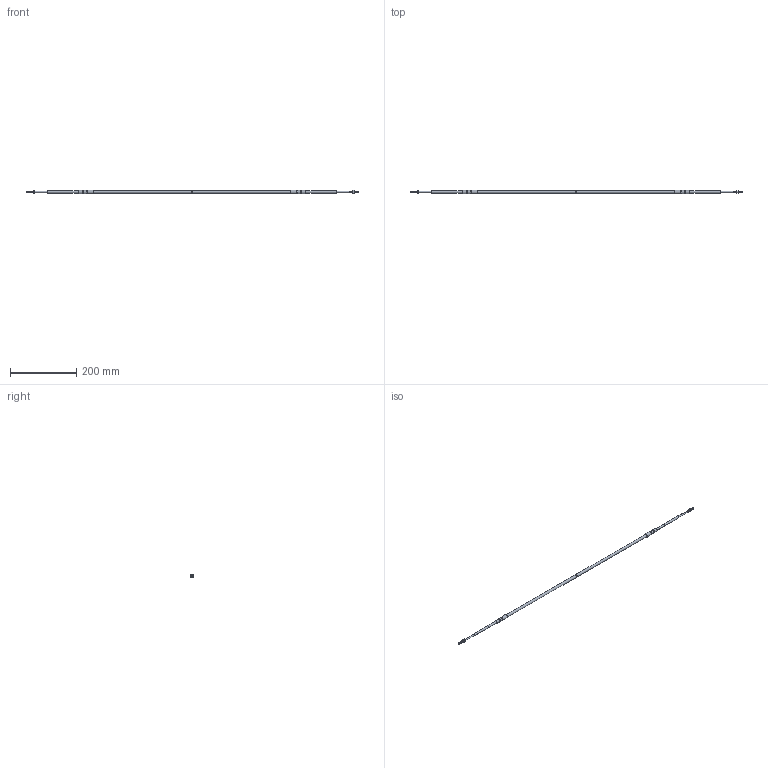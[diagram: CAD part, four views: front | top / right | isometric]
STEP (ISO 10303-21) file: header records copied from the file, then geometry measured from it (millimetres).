
FILE_DESCRIPTION(/* description */ (''),/* implementation_level */ '2;1');
FILE_NAME(/* name */ 'complessivo mach0.stp',/* time_stamp */ '2021-02-04T15:30:16+01:00',/* author */ (''),/* organization */ (''),/* preprocessor_version */ 'ST-DEVELOPER v16.7',/* originating_system */ 'SIEMENS PLM Software NX 1863',/* authorisation */ '');
FILE_SCHEMA (('AP203_CONFIGURATION_CONTROLLED_3D_DESIGN_OF_MECHANICAL_PARTS_AND_ASSEMBLIES_MIM_LF { 1 0 10303 403 2 1 2}'));
Length unit declared in the file: millimetre
Products named in the file (1): mcam273CB774zueg
Bounding box: 1001 x 11 x 11 mm (x, y, z)
Volume: 44136.8 mm3; surface area: 30646.1 mm2
Topology: 10 solids, 10 shells, 158 faces, 386 edges, 265 vertices
Faces by surface type: cylinder 80, plane 40, cone 34, bspline 4
Full cylindrical faces by diameter (mm): 4.351 x2, 4.76 x60, 5 x2, 6.2 x2, 6.35 x2, 8 x2, 9.45 x4, 11 x2
Entity records: 18319 total; most frequent: CARTESIAN_POINT 16273, DIRECTION 372, ORIENTED_EDGE 300, AXIS2_PLACEMENT_3D 174, EDGE_CURVE 150, EDGE_LOOP 136, VERTEX_POINT 106, ADVANCED_FACE 96
